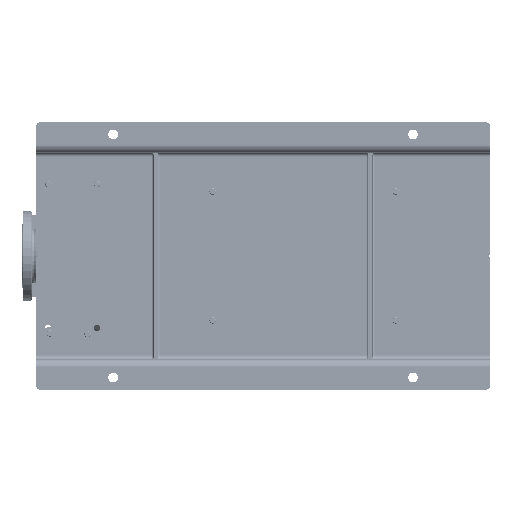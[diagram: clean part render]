
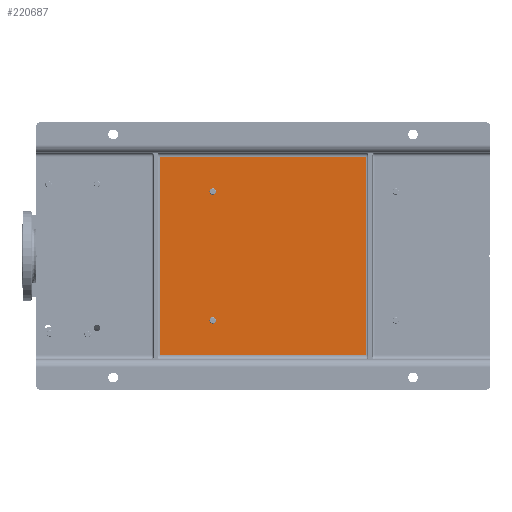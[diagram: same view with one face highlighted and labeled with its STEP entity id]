
A CAD part, front view. The second image highlights one B-rep face of the part: STEP entity #220687.
In plain terms, the highlighted planar face has unit normal (0, -1, 0).
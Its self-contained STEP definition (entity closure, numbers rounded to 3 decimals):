
#1156 = VERTEX_POINT ( 'NONE', #77018 ) ;
#2223 = DIRECTION ( 'NONE',  ( 0., 0., -1. ) ) ;
#2561 = CIRCLE ( 'NONE', #12367, 8. ) ;
#4387 = EDGE_CURVE ( 'NONE', #1156, #181020, #145506, .T. ) ;
#4587 = CARTESIAN_POINT ( 'NONE',  ( 75., 65., -815. ) ) ;
#11254 = CARTESIAN_POINT ( 'NONE',  ( 489., 65., -427.65 ) ) ;
#12367 = AXIS2_PLACEMENT_3D ( 'NONE', #162577, #45155, #231215 ) ;
#25064 = CARTESIAN_POINT ( 'NONE',  ( 171., 65., -427.65 ) ) ;
#31584 = EDGE_CURVE ( 'NONE', #81225, #89882, #294214, .T. ) ;
#45155 = DIRECTION ( 'NONE',  ( 0., 1., 0. ) ) ;
#48054 = FACE_BOUND ( 'NONE', #147744, .T. ) ;
#59706 = CARTESIAN_POINT ( 'NONE',  ( 75., 65., -1120. ) ) ;
#64353 = LINE ( 'NONE', #274767, #223418 ) ;
#66085 = VERTEX_POINT ( 'NONE', #154880 ) ;
#73678 = DIRECTION ( 'NONE',  ( 0., 0., 1. ) ) ;
#74735 = DIRECTION ( 'NONE',  ( 1., 0., 0. ) ) ;
#76179 = EDGE_LOOP ( 'NONE', ( #113115, #225264, #117492, #243086 ) ) ;
#77018 = CARTESIAN_POINT ( 'NONE',  ( 85., 65., -305. ) ) ;
#81225 = VERTEX_POINT ( 'NONE', #180444 ) ;
#86348 = ORIENTED_EDGE ( 'NONE', *, *, #31584, .T. ) ;
#87129 = PLANE ( 'NONE',  #89483 ) ;
#89483 = AXIS2_PLACEMENT_3D ( 'NONE', #59706, #129910, #180118 ) ;
#89882 = VERTEX_POINT ( 'NONE', #25064 ) ;
#113115 = ORIENTED_EDGE ( 'NONE', *, *, #4387, .T. ) ;
#113651 = EDGE_CURVE ( 'NONE', #178514, #164406, #139355, .T. ) ;
#117492 = ORIENTED_EDGE ( 'NONE', *, *, #300258, .T. ) ;
#117977 = LINE ( 'NONE', #258211, #160268 ) ;
#119472 = EDGE_CURVE ( 'NONE', #138744, #1156, #64353, .T. ) ;
#125044 = LINE ( 'NONE', #4587, #157600 ) ;
#125840 = DIRECTION ( 'NONE',  ( 0., 0., -1. ) ) ;
#129910 = DIRECTION ( 'NONE',  ( 0., -1., 0. ) ) ;
#130759 = CIRCLE ( 'NONE', #301151, 8. ) ;
#133622 = DIRECTION ( 'NONE',  ( 0., 0., -1. ) ) ;
#138744 = VERTEX_POINT ( 'NONE', #189390 ) ;
#139355 = CIRCLE ( 'NONE', #153937, 8. ) ;
#142617 = FACE_BOUND ( 'NONE', #292507, .T. ) ;
#143362 = AXIS2_PLACEMENT_3D ( 'NONE', #266089, #264580, #125840 ) ;
#145506 = LINE ( 'NONE', #209610, #278396 ) ;
#145680 = CARTESIAN_POINT ( 'NONE',  ( 85., 65., -815. ) ) ;
#147744 = EDGE_LOOP ( 'NONE', ( #298024, #148415 ) ) ;
#148415 = ORIENTED_EDGE ( 'NONE', *, *, #113651, .T. ) ;
#153937 = AXIS2_PLACEMENT_3D ( 'NONE', #160961, #203737, #272376 ) ;
#154880 = CARTESIAN_POINT ( 'NONE',  ( 575., 65., -815. ) ) ;
#155758 = ORIENTED_EDGE ( 'NONE', *, *, #274744, .T. ) ;
#157600 = VECTOR ( 'NONE', #74735, 1000. ) ;
#160268 = VECTOR ( 'NONE', #73678, 1000. ) ;
#160961 = CARTESIAN_POINT ( 'NONE',  ( 489., 65., -435.65 ) ) ;
#162577 = CARTESIAN_POINT ( 'NONE',  ( 489., 65., -435.65 ) ) ;
#164406 = VERTEX_POINT ( 'NONE', #11254 ) ;
#178514 = VERTEX_POINT ( 'NONE', #244841 ) ;
#180118 = DIRECTION ( 'NONE',  ( 0., 0., -1. ) ) ;
#180444 = CARTESIAN_POINT ( 'NONE',  ( 171., 65., -443.65 ) ) ;
#181020 = VERTEX_POINT ( 'NONE', #145680 ) ;
#181891 = EDGE_CURVE ( 'NONE', #164406, #178514, #2561, .T. ) ;
#189390 = CARTESIAN_POINT ( 'NONE',  ( 575., 65., -305. ) ) ;
#203737 = DIRECTION ( 'NONE',  ( 0., 1., 0. ) ) ;
#205202 = CARTESIAN_POINT ( 'NONE',  ( 171., 65., -435.65 ) ) ;
#209610 = CARTESIAN_POINT ( 'NONE',  ( 85., 65., -820. ) ) ;
#220687 = ADVANCED_FACE ( 'NONE', ( #48054, #142617, #293018 ), #87129, .T. ) ;
#220977 = EDGE_CURVE ( 'NONE', #181020, #66085, #125044, .T. ) ;
#223418 = VECTOR ( 'NONE', #226015, 1000. ) ;
#225264 = ORIENTED_EDGE ( 'NONE', *, *, #220977, .T. ) ;
#226015 = DIRECTION ( 'NONE',  ( -1., 0., 0. ) ) ;
#231215 = DIRECTION ( 'NONE',  ( 0., 0., 1. ) ) ;
#243086 = ORIENTED_EDGE ( 'NONE', *, *, #119472, .T. ) ;
#244841 = CARTESIAN_POINT ( 'NONE',  ( 489., 65., -443.65 ) ) ;
#258211 = CARTESIAN_POINT ( 'NONE',  ( 575., 65., -300. ) ) ;
#264580 = DIRECTION ( 'NONE',  ( 0., 1., 0. ) ) ;
#266089 = CARTESIAN_POINT ( 'NONE',  ( 171., 65., -435.65 ) ) ;
#272345 = DIRECTION ( 'NONE',  ( 0., 1., 0. ) ) ;
#272376 = DIRECTION ( 'NONE',  ( 0., 0., 1. ) ) ;
#274744 = EDGE_CURVE ( 'NONE', #89882, #81225, #130759, .T. ) ;
#274767 = CARTESIAN_POINT ( 'NONE',  ( 75., 65., -305. ) ) ;
#278396 = VECTOR ( 'NONE', #2223, 1000. ) ;
#292507 = EDGE_LOOP ( 'NONE', ( #155758, #86348 ) ) ;
#293018 = FACE_OUTER_BOUND ( 'NONE', #76179, .T. ) ;
#294214 = CIRCLE ( 'NONE', #143362, 8. ) ;
#298024 = ORIENTED_EDGE ( 'NONE', *, *, #181891, .T. ) ;
#300258 = EDGE_CURVE ( 'NONE', #66085, #138744, #117977, .T. ) ;
#301151 = AXIS2_PLACEMENT_3D ( 'NONE', #205202, #272345, #133622 ) ;
